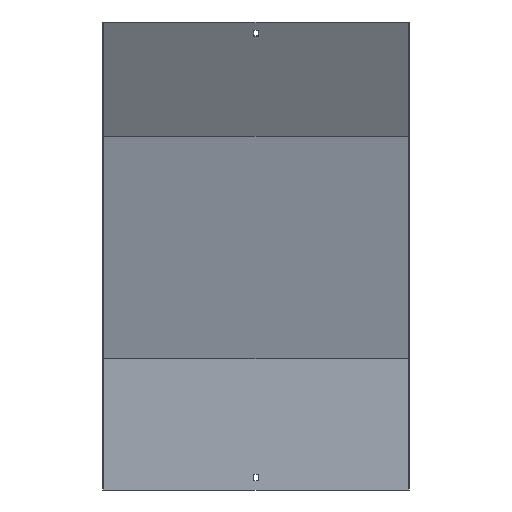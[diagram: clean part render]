
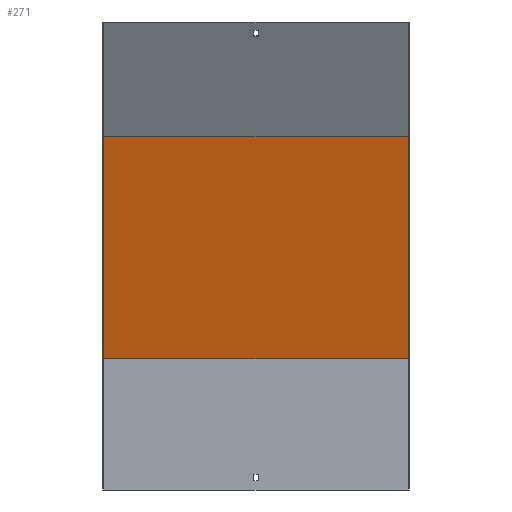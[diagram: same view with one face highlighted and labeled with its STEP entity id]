
A CAD part, front view. The second image highlights one B-rep face of the part: STEP entity #271.
In plain terms, the highlighted planar face has unit normal (0, -0.966, -0.259).
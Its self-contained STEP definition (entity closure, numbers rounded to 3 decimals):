
#10 = EDGE_LOOP ( 'NONE', ( #414, #511, #700, #715 ) ) ;
#32 = CARTESIAN_POINT ( 'NONE',  ( 200., -59.889, 464.987 ) ) ;
#50 = FACE_OUTER_BOUND ( 'NONE', #10, .T. ) ;
#62 = LINE ( 'NONE', #176, #203 ) ;
#74 = AXIS2_PLACEMENT_3D ( 'NONE', #655, #319, #532 ) ;
#103 = LINE ( 'NONE', #363, #811 ) ;
#146 = CARTESIAN_POINT ( 'NONE',  ( -200., 18.5, 172.436 ) ) ;
#176 = CARTESIAN_POINT ( 'NONE',  ( 201.5, -59.889, 464.987 ) ) ;
#203 = VECTOR ( 'NONE', #767, 1000. ) ;
#214 = CARTESIAN_POINT ( 'NONE',  ( 200., 60.37, 16.176 ) ) ;
#231 = EDGE_CURVE ( 'NONE', #364, #576, #669, .T. ) ;
#233 = EDGE_CURVE ( 'NONE', #531, #326, #62, .T. ) ;
#248 = CARTESIAN_POINT ( 'NONE',  ( 201.5, 18.5, 172.436 ) ) ;
#271 = ADVANCED_FACE ( 'NONE', ( #50 ), #387, .T. ) ;
#319 = DIRECTION ( 'NONE',  ( 0., -0.966, -0.259 ) ) ;
#326 = VERTEX_POINT ( 'NONE', #731 ) ;
#363 = CARTESIAN_POINT ( 'NONE',  ( -200., 60.37, 16.176 ) ) ;
#364 = VERTEX_POINT ( 'NONE', #663 ) ;
#387 = PLANE ( 'NONE',  #74 ) ;
#414 = ORIENTED_EDGE ( 'NONE', *, *, #855, .F. ) ;
#416 = EDGE_CURVE ( 'NONE', #364, #531, #806, .T. ) ;
#423 = VECTOR ( 'NONE', #483, 1000. ) ;
#483 = DIRECTION ( 'NONE',  ( 0., -0.259, 0.966 ) ) ;
#511 = ORIENTED_EDGE ( 'NONE', *, *, #231, .F. ) ;
#531 = VERTEX_POINT ( 'NONE', #32 ) ;
#532 = DIRECTION ( 'NONE',  ( 0., 0.259, -0.966 ) ) ;
#576 = VERTEX_POINT ( 'NONE', #146 ) ;
#642 = DIRECTION ( 'NONE',  ( 0., -0.259, 0.966 ) ) ;
#655 = CARTESIAN_POINT ( 'NONE',  ( 201.5, 17.87, 174.788 ) ) ;
#663 = CARTESIAN_POINT ( 'NONE',  ( 200., 18.5, 172.436 ) ) ;
#669 = LINE ( 'NONE', #248, #833 ) ;
#700 = ORIENTED_EDGE ( 'NONE', *, *, #416, .T. ) ;
#715 = ORIENTED_EDGE ( 'NONE', *, *, #233, .T. ) ;
#731 = CARTESIAN_POINT ( 'NONE',  ( -200., -59.889, 464.987 ) ) ;
#767 = DIRECTION ( 'NONE',  ( -1., 0., 0. ) ) ;
#806 = LINE ( 'NONE', #214, #423 ) ;
#811 = VECTOR ( 'NONE', #642, 1000. ) ;
#833 = VECTOR ( 'NONE', #834, 1000. ) ;
#834 = DIRECTION ( 'NONE',  ( -1., 0., 0. ) ) ;
#855 = EDGE_CURVE ( 'NONE', #576, #326, #103, .T. ) ;
